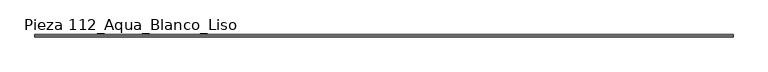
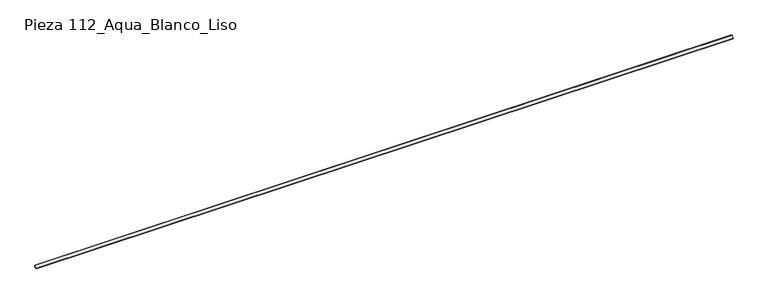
"""IFC4 building model written with IfcOpenShell, lengths in millimetres: slab geometry, ROSA GRES_112 : Pieza 112_Aqua_Blanco_Liso."""

from ifc_helpers import new_model, si_unit, point, frame, frame_2d, origin, place, context, project, spatial, polyline, circle_curve, trimmed, segment, composite_curve, outline, extrude, source, transform, mapped, element, save


def pieza_112_aqua_blanco_liso_9aff94d1(model_context):
    return source(origin(), model_context, "Body", "SweptSolid", [
        extrude(outline(composite_curve([segment(polyline([(9.9734114, 8.7114978), (1.2619137, 0.0), (-30.0265886, 0.0), (-30.0265886, 9.9734114)]), True, "CONTINUOUS"), segment(trimmed(circle_curve(frame_2d((-30.0221432, 39.9955547)), 30.0221435), [point((-30.0265886, 9.9734114))], [point((0.0, 40.0))], True, "CARTESIAN"), True, "CONTINUOUS"), segment(polyline([(0.0, 40.0), (9.9734114, 40.0), (9.9734114, 8.7114978)]), True, "CONTINUOUS")], self_intersect=False)), frame((0.0, 0.0, 0.0), z_axis=(1.0, 0.0, 0.0), x_axis=(0.0, 1.0, 0.0)), (0.0, 0.0, 1.0), 11535.8808539),
    ])


if __name__ == "__main__":
    model = new_model("IFC4")
    model_context = context("Model", 3, world=origin())
    ifc_project = project(units=[si_unit("LENGTHUNIT", "METRE", prefix="MILLI")], contexts=[model_context])
    site = spatial("IfcSite", under=ifc_project)
    building = spatial("IfcBuilding", under=site)
    placement = place(None, origin())
    pieza_112_aqua_blanco_liso_shape = pieza_112_aqua_blanco_liso_9aff94d1(model_context)
    element("IfcSlab", 1, ObjectType="ROSA GRES_112 : Pieza 112_Aqua_Blanco_Liso", at=placement, inside=building, context=model_context, shape_type="MappedRepresentation", body=[
        mapped(pieza_112_aqua_blanco_liso_shape, transform((0.0, 0.0, 0.0), x_axis=(1.0, 0.0, 0.0), y_axis=(0.0, 1.0, 0.0), z_axis=(0.0, 0.0, 1.0))),
    ])
    save(model, "model.ifc")
